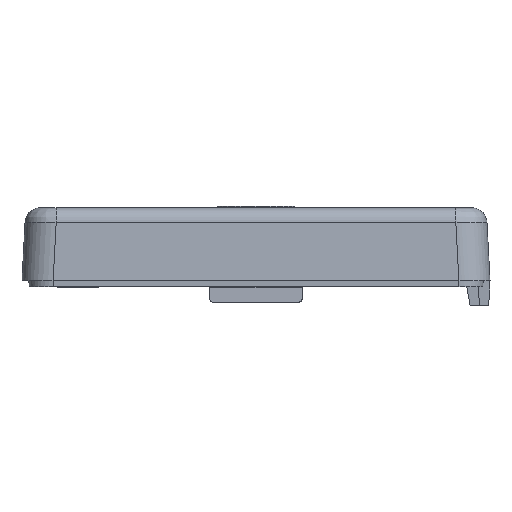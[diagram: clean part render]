
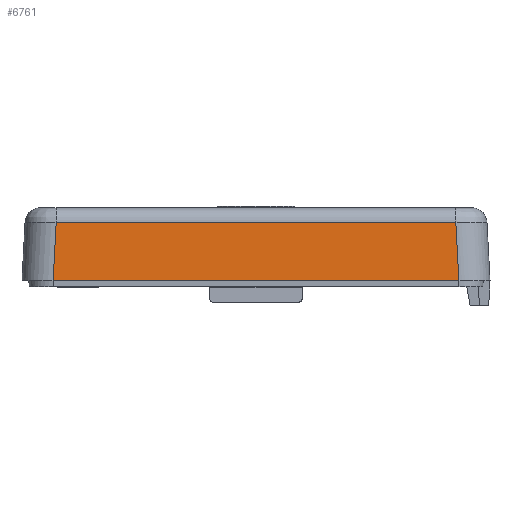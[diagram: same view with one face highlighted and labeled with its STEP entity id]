
A CAD part, left-side view. The second image highlights one B-rep face of the part: STEP entity #6761.
In plain terms, the highlighted planar face has unit normal (-0.999, 0, 0.052).
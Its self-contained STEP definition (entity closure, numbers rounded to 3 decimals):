
#477 = VERTEX_POINT ( 'NONE', #5051 ) ;
#479 = PLANE ( 'NONE',  #4652 ) ;
#484 = CARTESIAN_POINT ( 'NONE',  ( -50., 32.507, 12. ) ) ;
#542 = CARTESIAN_POINT ( 'NONE',  ( -50., 37.5, 12. ) ) ;
#1033 = ORIENTED_EDGE ( 'NONE', *, *, #4339, .T. ) ;
#1194 = VECTOR ( 'NONE', #8536, 1000. ) ;
#1538 = VERTEX_POINT ( 'NONE', #3533 ) ;
#1683 = CARTESIAN_POINT ( 'NONE',  ( -49.809, -32.316, 15.649 ) ) ;
#1797 = EDGE_CURVE ( 'NONE', #4079, #1538, #3368, .T. ) ;
#2015 = LINE ( 'NONE', #7599, #3291 ) ;
#2014 = DIRECTION ( 'NONE',  ( 0.052, 0., 0.999 ) ) ;
#2565 = VERTEX_POINT ( 'NONE', #484 ) ;
#2840 = DIRECTION ( 'NONE',  ( 0., -1., 0. ) ) ;
#3183 = EDGE_CURVE ( 'NONE', #477, #4079, #5256, .T. ) ;
#3223 = CARTESIAN_POINT ( 'NONE',  ( -49.511, -32.018, 21.331 ) ) ;
#3291 = VECTOR ( 'NONE', #8362, 1000. ) ;
#3368 = LINE ( 'NONE', #6879, #9208 ) ;
#3533 = CARTESIAN_POINT ( 'NONE',  ( -49.511, 32.018, 21.331 ) ) ;
#3779 = ORIENTED_EDGE ( 'NONE', *, *, #1797, .T. ) ;
#4079 = VERTEX_POINT ( 'NONE', #3223 ) ;
#4339 = EDGE_CURVE ( 'NONE', #2565, #477, #9265, .T. ) ;
#4652 = AXIS2_PLACEMENT_3D ( 'NONE', #5808, #6571, #2014 ) ;
#5051 = CARTESIAN_POINT ( 'NONE',  ( -50., -32.507, 12. ) ) ;
#5256 = LINE ( 'NONE', #1683, #1194 ) ;
#5524 = EDGE_CURVE ( 'NONE', #1538, #2565, #2015, .T. ) ;
#5686 = FACE_OUTER_BOUND ( 'NONE', #6107, .T. ) ;
#5808 = CARTESIAN_POINT ( 'NONE',  ( -50., 37.5, 12. ) ) ;
#6107 = EDGE_LOOP ( 'NONE', ( #9491, #3779, #6823, #1033 ) ) ;
#6571 = DIRECTION ( 'NONE',  ( -0.999, 0., 0.052 ) ) ;
#6761 = ADVANCED_FACE ( 'NONE', ( #5686 ), #479, .T. ) ;
#6820 = DIRECTION ( 'NONE',  ( 0., 1., 0. ) ) ;
#6823 = ORIENTED_EDGE ( 'NONE', *, *, #5524, .T. ) ;
#6879 = CARTESIAN_POINT ( 'NONE',  ( -49.511, 31.894, 21.331 ) ) ;
#7252 = VECTOR ( 'NONE', #2840, 1000. ) ;
#7599 = CARTESIAN_POINT ( 'NONE',  ( -50.014, 32.52, 11.74 ) ) ;
#8362 = DIRECTION ( 'NONE',  ( -0.052, 0.052, -0.997 ) ) ;
#8536 = DIRECTION ( 'NONE',  ( 0.052, 0.052, 0.997 ) ) ;
#9208 = VECTOR ( 'NONE', #6820, 1000. ) ;
#9265 = LINE ( 'NONE', #542, #7252 ) ;
#9491 = ORIENTED_EDGE ( 'NONE', *, *, #3183, .T. ) ;
